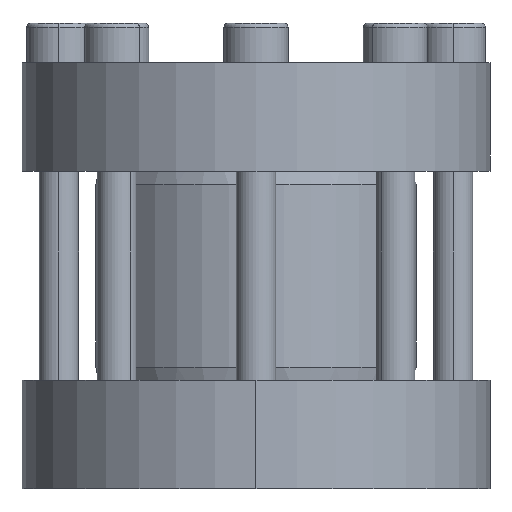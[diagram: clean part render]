
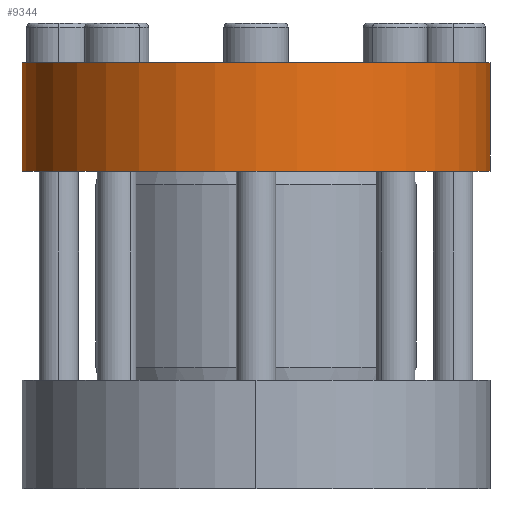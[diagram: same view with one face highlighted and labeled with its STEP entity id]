
A CAD part, left-side view. The second image highlights one B-rep face of the part: STEP entity #9344.
In plain terms, the highlighted cylindrical face has radius 47.5 mm (diameter 95 mm), a partial arc.
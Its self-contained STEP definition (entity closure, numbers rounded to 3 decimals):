
#6 = VERTEX_POINT ( 'NONE', #10170 ) ;
#43 = EDGE_CURVE ( 'NONE', #1008, #6, #7250, .T. ) ;
#260 = DIRECTION ( 'NONE',  ( 0., 0., -1. ) ) ;
#342 = CIRCLE ( 'NONE', #4154, 47.5 ) ;
#761 = FACE_OUTER_BOUND ( 'NONE', #2472, .T. ) ;
#1008 = VERTEX_POINT ( 'NONE', #8741 ) ;
#1035 = DIRECTION ( 'NONE',  ( 0., 0., -1. ) ) ;
#1779 = CYLINDRICAL_SURFACE ( 'NONE', #11722, 47.5 ) ;
#1828 = EDGE_CURVE ( 'NONE', #3484, #4928, #3144, .T. ) ;
#2472 = EDGE_LOOP ( 'NONE', ( #8547, #5822, #5175, #6492 ) ) ;
#3144 = LINE ( 'NONE', #10291, #10223 ) ;
#3484 = VERTEX_POINT ( 'NONE', #3867 ) ;
#3625 = EDGE_CURVE ( 'NONE', #4928, #6, #7834, .T. ) ;
#3867 = CARTESIAN_POINT ( 'NONE',  ( 0., -47.5, 61.743 ) ) ;
#4154 = AXIS2_PLACEMENT_3D ( 'NONE', #6577, #1035, #7490 ) ;
#4196 = DIRECTION ( 'NONE',  ( 0., 0., 1. ) ) ;
#4731 = DIRECTION ( 'NONE',  ( 0., 0., 1. ) ) ;
#4770 = DIRECTION ( 'NONE',  ( 0., 0., 1. ) ) ;
#4928 = VERTEX_POINT ( 'NONE', #6884 ) ;
#5175 = ORIENTED_EDGE ( 'NONE', *, *, #1828, .T. ) ;
#5803 = CARTESIAN_POINT ( 'NONE',  ( 0., 0., 83.743 ) ) ;
#5822 = ORIENTED_EDGE ( 'NONE', *, *, #9026, .F. ) ;
#6175 = DIRECTION ( 'NONE',  ( 0., -1., 0. ) ) ;
#6492 = ORIENTED_EDGE ( 'NONE', *, *, #3625, .T. ) ;
#6577 = CARTESIAN_POINT ( 'NONE',  ( 0., 0., 61.743 ) ) ;
#6734 = DIRECTION ( 'NONE',  ( 0., 1., 0. ) ) ;
#6884 = CARTESIAN_POINT ( 'NONE',  ( 0., -47.5, 83.743 ) ) ;
#7056 = CARTESIAN_POINT ( 'NONE',  ( 0., 0., 61.743 ) ) ;
#7250 = LINE ( 'NONE', #11159, #9710 ) ;
#7456 = AXIS2_PLACEMENT_3D ( 'NONE', #5803, #260, #6734 ) ;
#7490 = DIRECTION ( 'NONE',  ( 0., 1., 0. ) ) ;
#7834 = CIRCLE ( 'NONE', #7456, 47.5 ) ;
#8547 = ORIENTED_EDGE ( 'NONE', *, *, #43, .F. ) ;
#8741 = CARTESIAN_POINT ( 'NONE',  ( 0., 47.5, 61.743 ) ) ;
#9026 = EDGE_CURVE ( 'NONE', #3484, #1008, #342, .T. ) ;
#9344 = ADVANCED_FACE ( 'NONE', ( #761 ), #1779, .T. ) ;
#9710 = VECTOR ( 'NONE', #4731, 1000. ) ;
#10170 = CARTESIAN_POINT ( 'NONE',  ( 0., 47.5, 83.743 ) ) ;
#10223 = VECTOR ( 'NONE', #4770, 1000. ) ;
#10291 = CARTESIAN_POINT ( 'NONE',  ( 0., -47.5, 61.743 ) ) ;
#11159 = CARTESIAN_POINT ( 'NONE',  ( 0., 47.5, 61.743 ) ) ;
#11722 = AXIS2_PLACEMENT_3D ( 'NONE', #7056, #4196, #6175 ) ;
